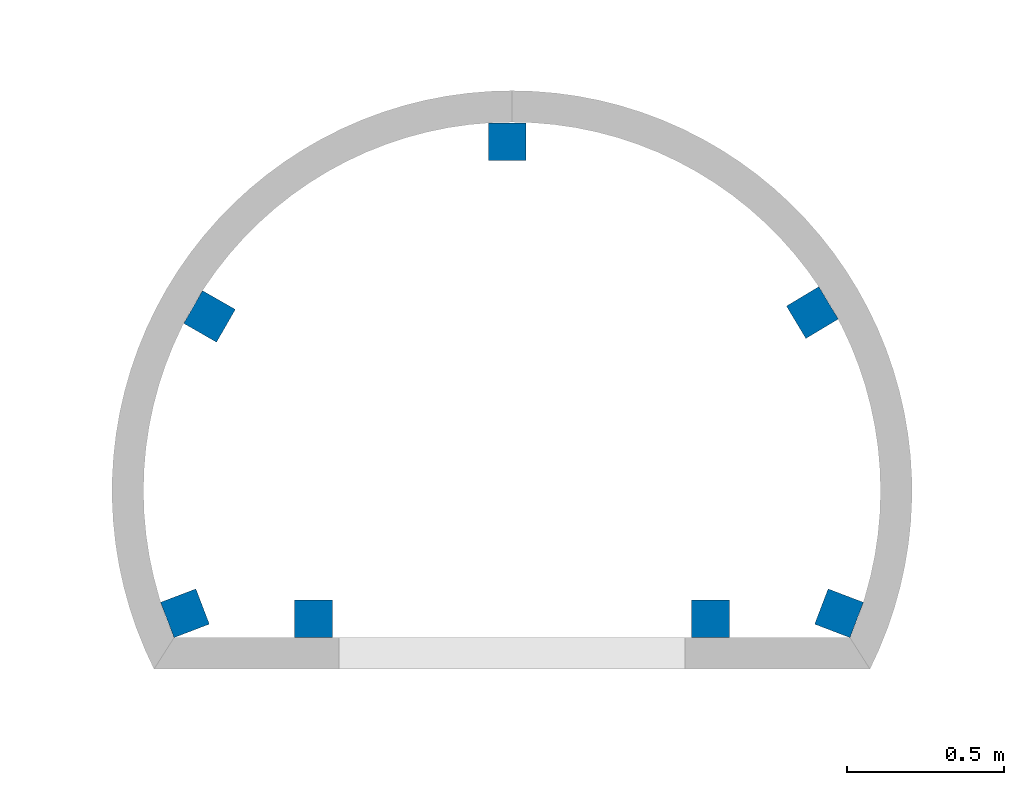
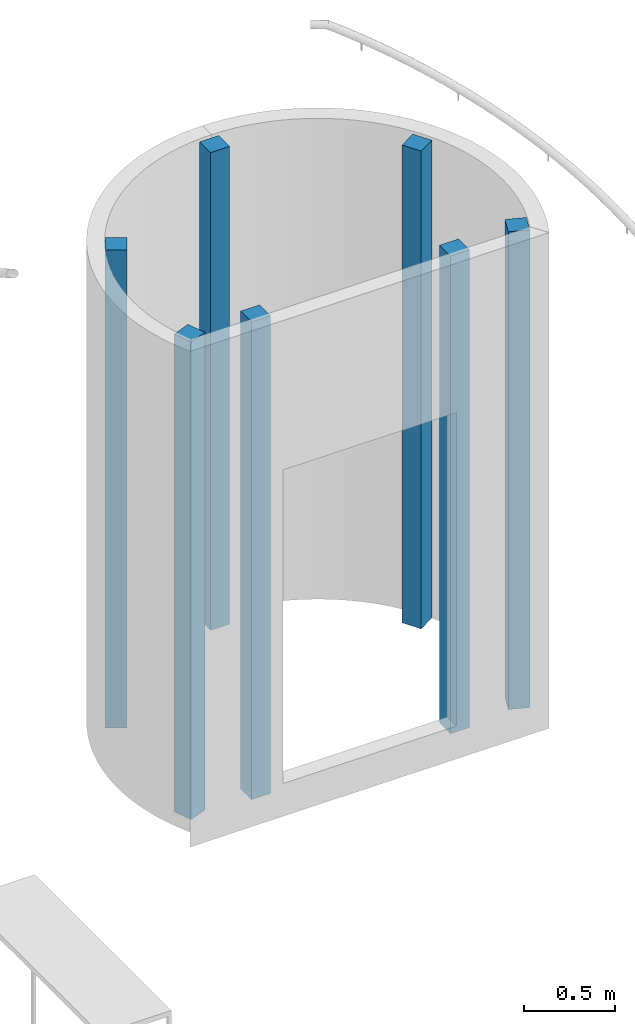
# One storey, part 1 of 9: 7 columns.
"""IFC4 building model written with IfcOpenShell, lengths in millimetres."""

from ifc_helpers import new_model, entity, si_unit, converted_unit, derived_unit, direction, frame, origin_with_axes, place, context, subcontext, project, spatial, line, indexed_curve, outline, extrude, material, material_profile, profile_set, type_object, element, save


model = new_model("IFC4")

# Units and contexts
model_context = context("Model", 3, precision=0.01, world=origin_with_axes(), true_north=direction((0.0, 1.0)))
body_context = subcontext(model_context, "Body", "Model", "MODEL_VIEW")
ifc_project = project(units=[si_unit("LENGTHUNIT", "METRE", prefix="MILLI"), si_unit("AREAUNIT", "SQUARE_METRE"), si_unit("VOLUMEUNIT", "CUBIC_METRE"), converted_unit("PLANEANGLEUNIT", "DEGREE", entity("IfcPlaneAngleMeasure", 0.0174532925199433), si_unit("PLANEANGLEUNIT", "RADIAN"), dimensions=[0, 0, 0, 0, 0, 0, 0]), converted_unit("TIMEUNIT", "Year", entity("IfcTimeMeasure", 31557600.0), si_unit("TIMEUNIT", "SECOND"), dimensions=[0, 0, 1, 0, 0, 0, 0]), si_unit("MASSUNIT", "GRAM", prefix="KILO"), si_unit("THERMODYNAMICTEMPERATUREUNIT", "DEGREE_CELSIUS"), si_unit("LUMINOUSINTENSITYUNIT", "LUMEN"), si_unit("ENERGYUNIT", "JOULE", prefix="MEGA"), derived_unit("THERMALCONDUCTANCEUNIT", [(si_unit("POWERUNIT", "WATT"), 1), (si_unit("LENGTHUNIT", "METRE"), -1), (si_unit("THERMODYNAMICTEMPERATUREUNIT", "KELVIN"), -1)]), derived_unit("SPECIFICHEATCAPACITYUNIT", [(si_unit("ENERGYUNIT", "JOULE"), 1), (si_unit("MASSUNIT", "GRAM", prefix="KILO"), -1), (si_unit("THERMODYNAMICTEMPERATUREUNIT", "KELVIN"), -1)]), derived_unit("MASSDENSITYUNIT", [(si_unit("MASSUNIT", "GRAM", prefix="KILO"), 1), (si_unit("VOLUMEUNIT", "CUBIC_METRE"), -1)])], contexts=[model_context])

# Site, building, storey
site_placement = place(None, origin_with_axes())
site = spatial("IfcSite", under=ifc_project, at=site_placement, Name="Exteriér", CompositionType="ELEMENT")
building_placement = place(site_placement, origin_with_axes())
building = spatial("IfcBuilding", under=site, at=building_placement, Name="Univerzitní lezecké centrum", CompositionType="ELEMENT")
storey_placement = place(building_placement, frame((0.0, 0.0, 3200.0), z_axis=(0.0, 0.0, 1.0), x_axis=(1.0, 0.0, 0.0)))
storey = spatial("IfcBuildingStorey", under=building, at=storey_placement, Name="2.NP", CompositionType="ELEMENT", Elevation=3200.0)

# Columns
ifc_material = material(Name="OBECNÉ - HRUBÉ STAVEBNÍ KONSTRUKCE")
ifc_material_profile_1 = material_profile(ifc_material, outline(indexed_curve([(-60.00000007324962, -60.00000007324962), (60.00000007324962, -60.00000007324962), (60.00000007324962, 60.00000007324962), (-60.00000007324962, 60.00000007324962)], segments=[line(1, 2, 3, 4, 1)])), Name="OBECNÉ - HRUBÉ STAVEBNÍ KONSTRUKCE")
ifc_profile_set_1 = profile_set([ifc_material_profile_1])
column_type = type_object("IfcColumnType", Name="Uživatelský profil 120 x 120", PredefinedType="COLUMN")
column_1_placement = place(storey_placement, frame((1411.539252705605, 3310.94092530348, -119.9999999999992), z_axis=(0.0, 0.0, 1.0), x_axis=(0.9342555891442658, 0.3566041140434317, 0.0)))
element("IfcColumn", 1, at=column_1_placement, inside=storey, type_object=column_type, material=ifc_profile_set_1, Name="S006", PredefinedType="COLUMN", context=body_context, shape_type="SweptSolid", body=[
    extrude(outline(indexed_curve([(-60.00000007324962, -60.00000007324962), (60.00000007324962, -60.00000007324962), (60.00000007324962, 60.00000007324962), (-60.00000007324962, 60.00000007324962)], segments=[line(1, 2, 3, 4, 1)])), origin_with_axes(), (0.0, 0.0, 1.0), 3200.0),
])
ifc_material_profile_2 = material_profile(ifc_material, outline(indexed_curve([(-60.00000010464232, -60.00000010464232), (60.00000010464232, -60.00000010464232), (60.00000010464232, 60.00000010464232), (-60.00000010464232, 60.00000010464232)], segments=[line(1, 2, 3, 4, 1)])), Name="OBECNÉ - HRUBÉ STAVEBNÍ KONSTRUKCE")
ifc_profile_set_2 = profile_set([ifc_material_profile_2])
column_2_placement = place(storey_placement, frame((2434.703625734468, 4807.584161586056, -119.9999999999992), z_axis=(0.0, 0.0, 1.0), x_axis=(1.0, 0.0, 0.0)))
element("IfcColumn", 2, at=column_2_placement, inside=storey, type_object=column_type, material=ifc_profile_set_2, Name="S006", PredefinedType="COLUMN", context=body_context, shape_type="SweptSolid", body=[
    extrude(outline(indexed_curve([(-60.00000010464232, -60.00000010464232), (60.00000010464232, -60.00000010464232), (60.00000010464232, 60.00000010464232), (-60.00000010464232, 60.00000010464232)], segments=[line(1, 2, 3, 4, 1)])), origin_with_axes(), (0.0, 0.0, 1.0), 3200.0),
])
ifc_material_profile_3 = material_profile(ifc_material, outline(indexed_curve([(-60.00000010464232, -60.00000010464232), (60.00000010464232, -60.00000010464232), (60.00000010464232, 60.00000010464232), (-60.00000010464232, 60.00000010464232)], segments=[line(1, 2, 3, 4, 1)])), Name="OBECNÉ - HRUBÉ STAVEBNÍ KONSTRUKCE")
ifc_profile_set_3 = profile_set([ifc_material_profile_3])
column_3_placement = place(storey_placement, frame((1489.53625742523, 4253.287418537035, -119.9999999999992), z_axis=(0.0, 0.0, 1.0), x_axis=(0.867866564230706, -0.4967973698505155, 0.0)))
element("IfcColumn", 3, at=column_3_placement, inside=storey, type_object=column_type, material=ifc_profile_set_3, Name="S007", PredefinedType="COLUMN", context=body_context, shape_type="SweptSolid", body=[
    extrude(outline(indexed_curve([(-60.00000010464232, -60.00000010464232), (60.00000010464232, -60.00000010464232), (60.00000010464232, 60.00000010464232), (-60.00000010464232, 60.00000010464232)], segments=[line(1, 2, 3, 4, 1)])), origin_with_axes(), (0.0, 0.0, 1.0), 3200.0),
])
ifc_material_profile_4 = material_profile(ifc_material, outline(indexed_curve([(-60.00000010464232, -60.00000010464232), (60.00000010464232, -60.00000010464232), (60.00000010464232, 60.00000010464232), (-60.00000010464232, 60.00000010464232)], segments=[line(1, 2, 3, 4, 1)])), Name="OBECNÉ - HRUBÉ STAVEBNÍ KONSTRUKCE")
ifc_profile_set_4 = profile_set([ifc_material_profile_4])
column_4_placement = place(storey_placement, frame((3403.472159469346, 4265.511352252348, -119.9999999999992), z_axis=(0.0, 0.0, 1.0), x_axis=(0.8580664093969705, 0.5135387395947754, 0.0)))
element("IfcColumn", 4, at=column_4_placement, inside=storey, type_object=column_type, material=ifc_profile_set_4, Name="S008", PredefinedType="COLUMN", context=body_context, shape_type="SweptSolid", body=[
    extrude(outline(indexed_curve([(-60.00000010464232, -60.00000010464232), (60.00000010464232, -60.00000010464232), (60.00000010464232, 60.00000010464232), (-60.00000010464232, 60.00000010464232)], segments=[line(1, 2, 3, 4, 1)])), origin_with_axes(), (0.0, 0.0, 1.0), 3200.0),
])
ifc_material_profile_5 = material_profile(ifc_material, outline(indexed_curve([(-60.00000007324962, -60.00000007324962), (60.00000007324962, -60.00000007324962), (60.00000007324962, 60.00000007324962), (-60.00000007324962, 60.00000007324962)], segments=[line(1, 2, 3, 4, 1)])), Name="OBECNÉ - HRUBÉ STAVEBNÍ KONSTRUKCE")
ifc_profile_set_5 = profile_set([ifc_material_profile_5])
column_5_placement = place(storey_placement, frame((3488.141807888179, 3310.881584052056, -119.9999999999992), z_axis=(0.0, 0.0, 1.0), x_axis=(0.9342352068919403, -0.3566575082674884, 0.0)))
element("IfcColumn", 5, at=column_5_placement, inside=storey, type_object=column_type, material=ifc_profile_set_5, Name="S006", PredefinedType="COLUMN", context=body_context, shape_type="SweptSolid", body=[
    extrude(outline(indexed_curve([(-60.00000007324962, -60.00000007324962), (60.00000007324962, -60.00000007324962), (60.00000007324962, 60.00000007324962), (-60.00000007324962, 60.00000007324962)], segments=[line(1, 2, 3, 4, 1)])), frame((0.0, 0.0, 0.0), z_axis=(0.0, 0.0, -1.0), x_axis=(-1.0, 0.0, 0.0)), (0.0, 0.0, -1.0), 3200.0),
])
ifc_material_profile_6 = material_profile(ifc_material, outline(indexed_curve([(-60.00000010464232, -60.00000010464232), (60.00000010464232, -60.00000010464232), (60.00000010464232, 60.00000010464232), (-60.00000010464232, 60.00000010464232)], segments=[line(1, 2, 3, 4, 1)])), Name="OBECNÉ - HRUBÉ STAVEBNÍ KONSTRUKCE")
ifc_profile_set_6 = profile_set([ifc_material_profile_6])
column_6_placement = place(storey_placement, frame((1819.713671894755, 3293.441882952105, -119.9999999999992), z_axis=(0.0, 0.0, 1.0), x_axis=(1.0, 0.0, 0.0)))
element("IfcColumn", 6, at=column_6_placement, inside=storey, type_object=column_type, material=ifc_profile_set_6, Name="S006", PredefinedType="COLUMN", context=body_context, shape_type="SweptSolid", body=[
    extrude(outline(indexed_curve([(-60.00000010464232, -60.00000010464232), (60.00000010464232, -60.00000010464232), (60.00000010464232, 60.00000010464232), (-60.00000010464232, 60.00000010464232)], segments=[line(1, 2, 3, 4, 1)])), origin_with_axes(), (0.0, 0.0, 1.0), 3200.0),
])
ifc_material_profile_7 = material_profile(ifc_material, outline(indexed_curve([(-60.00000010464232, -60.00000010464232), (60.00000010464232, -60.00000010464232), (60.00000010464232, 60.00000010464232), (-60.00000010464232, 60.00000010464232)], segments=[line(1, 2, 3, 4, 1)])), Name="OBECNÉ - HRUBÉ STAVEBNÍ KONSTRUKCE")
ifc_profile_set_7 = profile_set([ifc_material_profile_7])
column_7_placement = place(storey_placement, frame((3079.98099869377, 3293.428511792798, -119.9999999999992), z_axis=(0.0, 0.0, 1.0), x_axis=(0.9999999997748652, -2.121956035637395e-05, 0.0)))
element("IfcColumn", 7, at=column_7_placement, inside=storey, type_object=column_type, material=ifc_profile_set_7, Name="S006", PredefinedType="COLUMN", context=body_context, shape_type="SweptSolid", body=[
    extrude(outline(indexed_curve([(-60.00000010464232, -60.00000010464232), (60.00000010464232, -60.00000010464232), (60.00000010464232, 60.00000010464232), (-60.00000010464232, 60.00000010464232)], segments=[line(1, 2, 3, 4, 1)])), frame((0.0, 0.0, 0.0), z_axis=(0.0, 0.0, -1.0), x_axis=(-1.0, 0.0, 0.0)), (0.0, 0.0, -1.0), 3200.0),
])

save(model, "model.ifc")
